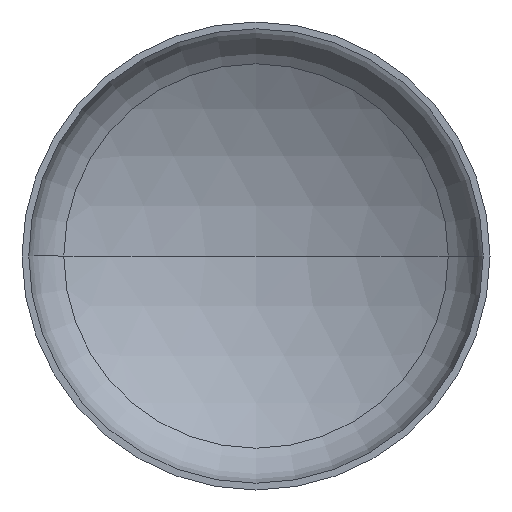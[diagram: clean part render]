
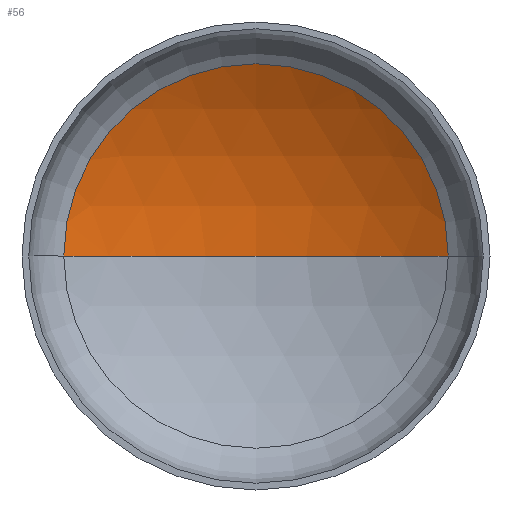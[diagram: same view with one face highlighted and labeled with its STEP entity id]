
A CAD part, front view. The second image highlights one B-rep face of the part: STEP entity #56.
In plain terms, the highlighted spherical face has radius 5200 mm.
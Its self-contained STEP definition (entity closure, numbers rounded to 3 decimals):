
#20 = CARTESIAN_POINT ( 'NONE',  ( 0., 1695.605, 0. ) ) ;
#56 = ADVANCED_FACE ( 'NONE', ( #275 ), #318, .F. ) ;
#58 = AXIS2_PLACEMENT_3D ( 'NONE', #199, #186, #180 ) ;
#59 = AXIS2_PLACEMENT_3D ( 'NONE', #292, #133, #154 ) ;
#63 = ORIENTED_EDGE ( 'NONE', *, *, #120, .T. ) ;
#65 = AXIS2_PLACEMENT_3D ( 'NONE', #316, #315, #310 ) ;
#73 = ORIENTED_EDGE ( 'NONE', *, *, #122, .T. ) ;
#86 = AXIS2_PLACEMENT_3D ( 'NONE', #364, #291, #290 ) ;
#120 = EDGE_CURVE ( 'NONE', #183, #137, #313, .T. ) ;
#122 = EDGE_CURVE ( 'NONE', #240, #183, #359, .T. ) ;
#127 = EDGE_CURVE ( 'NONE', #240, #137, #404, .T. ) ;
#133 = DIRECTION ( 'NONE',  ( 0., 0., -1. ) ) ;
#137 = VERTEX_POINT ( 'NONE', #146 ) ;
#146 = CARTESIAN_POINT ( 'NONE',  ( -2669.333, 958.189, 0. ) ) ;
#154 = DIRECTION ( 'NONE',  ( -1., 0., 0. ) ) ;
#167 = ORIENTED_EDGE ( 'NONE', *, *, #127, .F. ) ;
#180 = DIRECTION ( 'NONE',  ( 1., 0., 0. ) ) ;
#183 = VERTEX_POINT ( 'NONE', #256 ) ;
#186 = DIRECTION ( 'NONE',  ( 0., 0., 1. ) ) ;
#199 = CARTESIAN_POINT ( 'NONE',  ( 0., -3504.395, 0. ) ) ;
#232 = EDGE_LOOP ( 'NONE', ( #167, #73, #63 ) ) ;
#240 = VERTEX_POINT ( 'NONE', #20 ) ;
#256 = CARTESIAN_POINT ( 'NONE',  ( 2669.333, 958.189, 0. ) ) ;
#275 = FACE_OUTER_BOUND ( 'NONE', #232, .T. ) ;
#290 = DIRECTION ( 'NONE',  ( -1., 0., 0. ) ) ;
#291 = DIRECTION ( 'NONE',  ( 0., 0., -1. ) ) ;
#292 = CARTESIAN_POINT ( 'NONE',  ( 0., -3504.395, 0. ) ) ;
#310 = DIRECTION ( 'NONE',  ( 1., 0., 0. ) ) ;
#313 = CIRCLE ( 'NONE', #65, 2669.333 ) ;
#315 = DIRECTION ( 'NONE',  ( 0., -1., 0. ) ) ;
#316 = CARTESIAN_POINT ( 'NONE',  ( 0., 958.189, 0. ) ) ;
#318 = SPHERICAL_SURFACE ( 'NONE', #86, 5200. ) ;
#359 = CIRCLE ( 'NONE', #59, 5200. ) ;
#364 = CARTESIAN_POINT ( 'NONE',  ( 0., -3504.395, 0. ) ) ;
#404 = CIRCLE ( 'NONE', #58, 5200. ) ;
